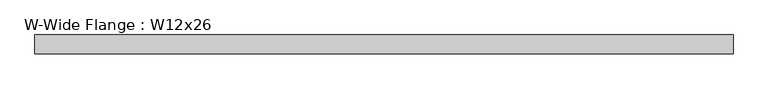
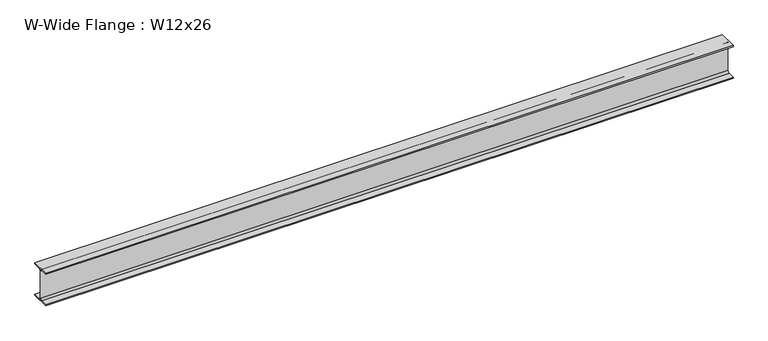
"""IFC4 building model written with IfcOpenShell, lengths in millimetres: beam geometry, W-Wide Flange : W12x26."""

from ifc_helpers import new_model, si_unit, point, frame, frame_2d, origin, place, context, project, spatial, polyline, circle_curve, trimmed, segment, composite_curve, outline, extrude, source, transform, mapped, element, save


def w_wide_flange_w12x26_99869b80(model_context):
    return source(origin(), model_context, "Body", "SweptSolid", [
        extrude(outline(composite_curve([segment(polyline([(82.423, -145.288), (82.423, -154.94), (-82.423, -154.94), (-82.423, -145.288), (-20.2565, -145.288)]), True, "CONTINUOUS"), segment(trimmed(circle_curve(frame_2d((-20.2565, -127.9525)), 17.3355), [point((-20.2565, -145.288))], [point((-2.921, -127.9525))], True, "CARTESIAN"), True, "CONTINUOUS"), segment(polyline([(-2.921, -127.9525), (-2.921, 127.9525)]), True, "CONTINUOUS"), segment(trimmed(circle_curve(frame_2d((-20.2565, 127.9525)), 17.3355), [point((-2.921, 127.9525))], [point((-20.2565, 145.288))], True, "CARTESIAN"), True, "CONTINUOUS"), segment(polyline([(-20.2565, 145.288), (-82.423, 145.288), (-82.423, 154.94), (82.423, 154.94), (82.423, 145.288), (20.2565, 145.288)]), True, "CONTINUOUS"), segment(trimmed(circle_curve(frame_2d((20.2565, 127.9525)), 17.3355), [point((20.2565, 145.288))], [point((2.921, 127.9525))], True, "CARTESIAN"), True, "CONTINUOUS"), segment(polyline([(2.921, 127.9525), (2.921, -127.9525)]), True, "CONTINUOUS"), segment(trimmed(circle_curve(frame_2d((20.2565, -127.9525)), 17.3355), [point((2.921, -127.9525))], [point((20.2565, -145.288))], True, "CARTESIAN"), True, "CONTINUOUS"), segment(polyline([(20.2565, -145.288), (82.423, -145.288)]), True, "CONTINUOUS")], self_intersect=False)), frame((-3054.35, 0.0, 0.0), z_axis=(1.0, 0.0, 0.0), x_axis=(0.0, 1.0, 0.0)), (0.0, 0.0, 1.0), 6141.847),
    ])


if __name__ == "__main__":
    model = new_model("IFC4")
    model_context = context("Model", 3, world=origin())
    ifc_project = project(units=[si_unit("LENGTHUNIT", "METRE", prefix="MILLI")], contexts=[model_context])
    site = spatial("IfcSite", under=ifc_project)
    building = spatial("IfcBuilding", under=site)
    placement = place(None, origin())
    w_wide_flange_w12x26_shape = w_wide_flange_w12x26_99869b80(model_context)
    element("IfcBeam", 1, ObjectType="W-Wide Flange : W12x26", at=placement, inside=building, context=model_context, shape_type="MappedRepresentation", body=[
        mapped(w_wide_flange_w12x26_shape, transform((0.0, 0.0, 0.0), x_axis=(1.0, 0.0, 0.0), y_axis=(0.0, 1.0, 0.0), z_axis=(0.0, 0.0, 1.0))),
    ])
    save(model, "model.ifc")
